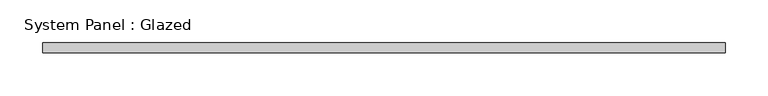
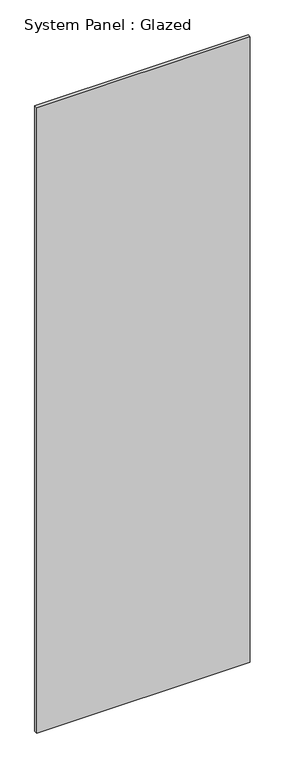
"""IFC4 building model written with IfcOpenShell, lengths in millimetres: plate geometry, System Panel : Glazed."""

import ifcopenshell
import ifcopenshell.guid

model = None  # the IFC model being written
_history = None  # IfcOwnerHistory: only IFC2X3 demands one
_inside = {}  # id of a spatial element -> (the spatial element, [elements in it])
_under = {}  # id of a project, library or spatial element -> (it, [spatial elements below it])
_declared = {}  # id of a project -> (the project, [libraries it declares])
_typed = {}  # id of a type object -> (the type object, [elements of that type])
_made_of = {}  # id of a material, layer set ... -> (it, [elements and type objects made of it])


def new_model(schema):
    """Start an empty IFC model of exactly this schema.

    Asked for "IFC4X3", IfcOpenShell would pick the latest addendum, in which some entities
    have other attributes; the version numbers below select the first issue.
    IFC2X3 requires an IfcOwnerHistory on every rooted entity: one is made here for all.
    """
    global model, _history
    if schema == "IFC4X3":
        model = ifcopenshell.file(schema_version=(4, 3, 0, 0))
    else:
        model = ifcopenshell.file(schema=schema)
    _inside.clear()
    _under.clear()
    _declared.clear()
    _typed.clear()
    _made_of.clear()
    _history = None
    if model.schema == "IFC2X3":
        org = make("IfcOrganization", Name="unknown")
        user = make(
            "IfcPersonAndOrganization",
            ThePerson=make("IfcPerson", FamilyName="unknown"),
            TheOrganization=org,
        )
        app = make(
            "IfcApplication",
            ApplicationDeveloper=org,
            Version="unknown",
            ApplicationFullName="unknown",
            ApplicationIdentifier="unknown",
        )
        _history = make(
            "IfcOwnerHistory",
            OwningUser=user,
            OwningApplication=app,
            ChangeAction="ADDED",
            CreationDate=0,
        )
    return model


def make(cls, **values):
    """One entity of the class cls with the attributes given. An attribute that is None is left unset."""
    return model.create_entity(
        cls, **{name: value for name, value in values.items() if value is not None}
    )


def rooted(cls, **values):
    """An entity with a GlobalId (a new one), such as an element, a storey or a relation."""
    return make(cls, GlobalId=ifcopenshell.guid.new(), OwnerHistory=_history, **values)


def si_unit(unit_type, name, prefix=None):
    """IfcSIUnit, for example si_unit("LENGTHUNIT", "METRE", prefix="MILLI")."""
    return make("IfcSIUnit", UnitType=unit_type, Prefix=prefix, Name=name)


def assignment(units):
    """IfcUnitAssignment: the units of a project."""
    return None if units is None else make("IfcUnitAssignment", Units=units)


def point(xyz):
    """IfcCartesianPoint."""
    return None if xyz is None else make("IfcCartesianPoint", Coordinates=xyz)


def direction(xyz):
    """IfcDirection."""
    return None if xyz is None else make("IfcDirection", DirectionRatios=xyz)


def frame(location, z_axis=None, x_axis=None):
    """IfcAxis2Placement3D, a coordinate frame: its origin and axes. An axis left out is left unset."""
    return make(
        "IfcAxis2Placement3D",
        Location=point(location),
        Axis=direction(z_axis),
        RefDirection=direction(x_axis),
    )


def origin():
    """The frame at (0, 0, 0) with its axes left unset."""
    return frame((0.0, 0.0, 0.0))


def origin_with_axes():
    """The frame at (0, 0, 0) with the z axis (0, 0, 1) and the x axis (1, 0, 0) written out."""
    return frame((0.0, 0.0, 0.0), z_axis=(0.0, 0.0, 1.0), x_axis=(1.0, 0.0, 0.0))


def place(relative_to, where):
    """IfcLocalPlacement: puts the frame where relative to a parent placement (None: the world)."""
    return make(
        "IfcLocalPlacement", PlacementRelTo=relative_to, RelativePlacement=where
    )


def context(
    kind, dimensions, precision=None, world=None, true_north=None, identifier=None
):
    """IfcGeometricRepresentationContext, for example the 3D "Model" context."""
    return make(
        "IfcGeometricRepresentationContext",
        ContextIdentifier=identifier,
        ContextType=kind,
        CoordinateSpaceDimension=dimensions,
        Precision=precision,
        WorldCoordinateSystem=world,
        TrueNorth=true_north,
    )


def project(units=None, contexts=None):
    """IfcProject with its units and contexts."""
    return rooted(
        "IfcProject",
        Name="project",
        RepresentationContexts=contexts,
        UnitsInContext=assignment(units),
    )


def spatial(cls, under=None, at=None, **own):
    """A site, building, storey or space (cls), placed at a placement, below another one or the project."""
    s = rooted(cls, ObjectPlacement=at, **own)
    if under is not None:
        _under.setdefault(under.id(), (under, []))[1].append(s)
    return s


def polyline(points):
    """IfcPolyline through the points."""
    return make("IfcPolyline", Points=[point(p) for p in points])


def outline(outer, holes=None, kind="AREA"):
    """IfcArbitraryClosedProfileDef: a profile drawn as a closed curve; with holes, ...WithVoids."""
    if holes is None:
        return make("IfcArbitraryClosedProfileDef", ProfileType=kind, OuterCurve=outer)
    return make(
        "IfcArbitraryProfileDefWithVoids",
        ProfileType=kind,
        OuterCurve=outer,
        InnerCurves=holes,
    )


def extrude(swept, where, along, depth):
    """IfcExtrudedAreaSolid: the profile swept, set in the frame where, extruded along a direction by depth."""
    return make(
        "IfcExtrudedAreaSolid",
        SweptArea=swept,
        Position=where,
        ExtrudedDirection=direction(along),
        Depth=depth,
    )


def shape(context_of_items, identifier, shape_type, items):
    """IfcShapeRepresentation: the items that make up one representation, for example the "Body"."""
    return make(
        "IfcShapeRepresentation",
        ContextOfItems=context_of_items,
        RepresentationIdentifier=identifier,
        RepresentationType=shape_type,
        Items=items,
    )


def source(mapping_origin, context_of_items, identifier, shape_type, items):
    """IfcRepresentationMap: a shape defined once, which mapped items show again and again."""
    return make(
        "IfcRepresentationMap",
        MappingOrigin=mapping_origin,
        MappedRepresentation=shape(context_of_items, identifier, shape_type, items),
    )


def transform(
    local_origin,
    x_axis=None,
    y_axis=None,
    z_axis=None,
    scale=None,
    scale2=None,
    scale3=None,
    uniform=True,
):
    """IfcCartesianTransformationOperator3D, or its non-uniform kind. x_axis, y_axis, z_axis: its Axis1, 2, 3."""
    if uniform:
        return make(
            "IfcCartesianTransformationOperator3D",
            Axis1=direction(x_axis),
            Axis2=direction(y_axis),
            LocalOrigin=point(local_origin),
            Scale=scale,
            Axis3=direction(z_axis),
        )
    return make(
        "IfcCartesianTransformationOperator3DnonUniform",
        Axis1=direction(x_axis),
        Axis2=direction(y_axis),
        LocalOrigin=point(local_origin),
        Scale=scale,
        Axis3=direction(z_axis),
        Scale2=scale2,
        Scale3=scale3,
    )


def mapped(mapping_source, mapping_target):
    """IfcMappedItem: shows the shape of a source again, moved by a transform."""
    return make(
        "IfcMappedItem", MappingSource=mapping_source, MappingTarget=mapping_target
    )


def made_of(thing, what):
    """Note that an element or type object is made of a material, layer set ...; save() writes the relation."""
    if what is not None:
        _made_of.setdefault(what.id(), (what, []))[1].append(thing)
    return thing


def element(
    cls,
    number,
    at=None,
    inside=None,
    cuts=None,
    type_object=None,
    material=None,
    context=None,
    identifier="Body",
    shape_type=None,
    held_by="IfcProductDefinitionShape",
    body=None,
    shapes=None,
    **own,
):
    """One element of the class cls, such as IfcWall. Its Tag is "e" and its number.

    at: its placement. inside: the storey or other place that contains it. cuts: it is an
    opening in that element (IfcRelVoidsElement). A single representation is given by context,
    identifier, shape_type and body (its items); several are given by shapes. held_by: the class
    of the entity that holds the representations. save() writes the other relations.
    """
    e = rooted(cls, Tag="e%d" % number, ObjectPlacement=at, **own)
    if body is not None:
        shapes = [shape(context, identifier, shape_type, body)]
    if shapes is not None:
        e.Representation = make(held_by, Representations=shapes)
    if inside is not None:
        _inside.setdefault(inside.id(), (inside, []))[1].append(e)
    if cuts is not None:
        rooted(
            "IfcRelVoidsElement", RelatingBuildingElement=cuts, RelatedOpeningElement=e
        )
    if type_object is not None:
        _typed.setdefault(type_object.id(), (type_object, []))[1].append(e)
    return made_of(e, material)


def aggregate(whole, parts):
    """IfcRelAggregates: a whole, such as a stair, and the parts it consists of."""
    return rooted("IfcRelAggregates", RelatingObject=whole, RelatedObjects=parts)


def save(model, path):
    """Write the relations noted so far, then the file.

    IfcRelAggregates (storeys below a building ...), IfcRelContainedInSpatialStructure (elements
    in a storey), IfcRelDefinesByType, IfcRelAssociatesMaterial and IfcRelDeclares: one each for
    every whole, place, type object, material and project.
    """
    for whole, parts in _under.values():
        aggregate(whole, parts)
    for where, things in _inside.values():
        rooted(
            "IfcRelContainedInSpatialStructure",
            RelatedElements=things,
            RelatingStructure=where,
        )
    for kind, things in _typed.values():
        rooted("IfcRelDefinesByType", RelatedObjects=things, RelatingType=kind)
    for what, things in _made_of.values():
        rooted("IfcRelAssociatesMaterial", RelatedObjects=things, RelatingMaterial=what)
    for by, libraries in _declared.values():
        rooted("IfcRelDeclares", RelatingContext=by, RelatedDefinitions=libraries)
    model.write(path)


def system_panel_glazed_b81a04c8(model_context):
    return source(origin(), model_context, "Body", "SweptSolid", [
        extrude(outline(polyline([(400.000002, 4.0), (-400.000002, 4.0), (-400.000002, 16.0), (400.000002, 16.0), (400.000002, 4.0)])), origin_with_axes(), (0.0, 0.0, 1.0), 2475.6124286),
    ])


if __name__ == "__main__":
    model = new_model("IFC4")
    model_context = context("Model", 3, world=origin())
    ifc_project = project(units=[si_unit("LENGTHUNIT", "METRE", prefix="MILLI")], contexts=[model_context])
    site = spatial("IfcSite", under=ifc_project)
    building = spatial("IfcBuilding", under=site)
    placement = place(None, origin())
    system_panel_glazed_shape = system_panel_glazed_b81a04c8(model_context)
    element("IfcPlate", 1, ObjectType="System Panel : Glazed", at=placement, inside=building, context=model_context, shape_type="MappedRepresentation", body=[
        mapped(system_panel_glazed_shape, transform((0.0, 0.0, 0.0), x_axis=(1.0, 0.0, 0.0), y_axis=(0.0, 1.0, 0.0), z_axis=(0.0, 0.0, 1.0))),
    ])
    save(model, "model.ifc")
